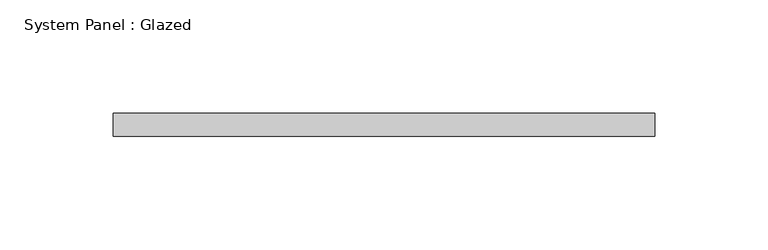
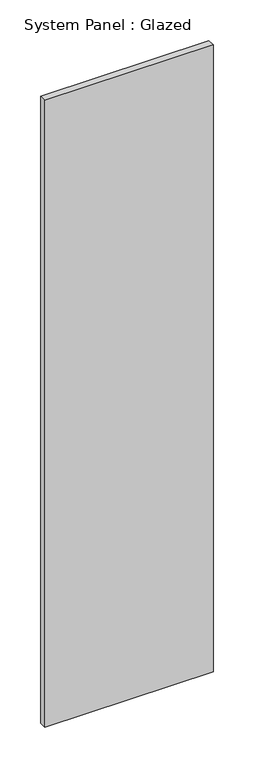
"""IFC4 building model written with IfcOpenShell, lengths in millimetres: plate geometry, System Panel : Glazed."""

from ifc_helpers import new_model, si_unit, origin, origin_with_axes, place, context, project, spatial, polyline, outline, extrude, source, transform, mapped, element, save


def system_panel_glazed_7560b1bc(model_context):
    return source(origin(), model_context, "Body", "SweptSolid", [
        extrude(outline(polyline([(119.3308338, -5.0), (-119.3308338, -5.0), (-119.3308338, 5.0), (119.3308338, 5.0), (119.3308338, -5.0)])), origin_with_axes(), (0.0, 0.0, 1.0), 940.0),
    ])


if __name__ == "__main__":
    model = new_model("IFC4")
    model_context = context("Model", 3, world=origin())
    ifc_project = project(units=[si_unit("LENGTHUNIT", "METRE", prefix="MILLI")], contexts=[model_context])
    site = spatial("IfcSite", under=ifc_project)
    building = spatial("IfcBuilding", under=site)
    placement = place(None, origin())
    system_panel_glazed_shape = system_panel_glazed_7560b1bc(model_context)
    element("IfcPlate", 1, ObjectType="System Panel : Glazed", at=placement, inside=building, context=model_context, shape_type="MappedRepresentation", body=[
        mapped(system_panel_glazed_shape, transform((0.0, 0.0, 0.0), x_axis=(1.0, 0.0, 0.0), y_axis=(0.0, 1.0, 0.0), z_axis=(0.0, 0.0, 1.0))),
    ])
    save(model, "model.ifc")
